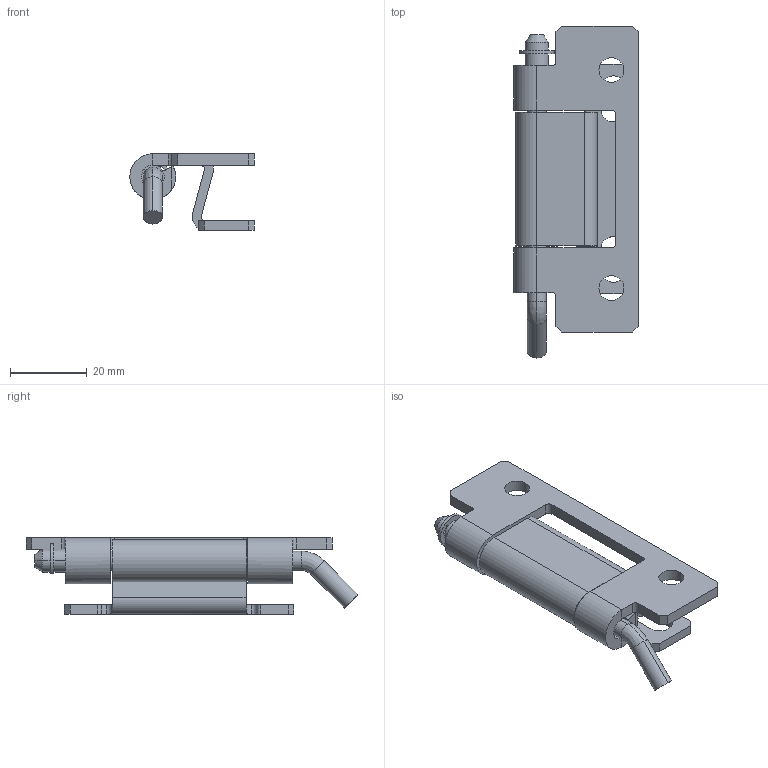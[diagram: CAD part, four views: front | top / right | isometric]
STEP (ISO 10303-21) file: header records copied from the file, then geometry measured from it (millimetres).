
FILE_DESCRIPTION(/* description */ (''),/* implementation_level */ '2;1');
FILE_NAME(/* name */ 'JL250-1',/* time_stamp */ '2024-10-04T14:57:39+08:00',/* author */ (''),/* organization */ (''),/* preprocessor_version */ 'ST-DEVELOPER v19.2',/* originating_system */ 'Rhino 8.5',/* authorisation */ '');
FILE_SCHEMA (('CONFIG_CONTROL_DESIGN'));
Length unit declared in the file: millimetre
Products named in the file (1): Document
Bounding box: 32.5 x 86.76 x 20 mm (x, y, z)
Volume: 13382 mm3; surface area: 12132.9 mm2
Topology: 4 solids, 4 shells, 111 faces, 288 edges, 188 vertices
Faces by surface type: plane 56, cylinder 51, bspline 4
Entity records: 3634 total; most frequent: CARTESIAN_POINT 1138, ORIENTED_EDGE 576, DIRECTION 324, EDGE_CURVE 288, AXIS2_PLACEMENT_3D 213, VERTEX_POINT 188, B_SPLINE_CURVE_WITH_KNOTS 132, EDGE_LOOP 126
